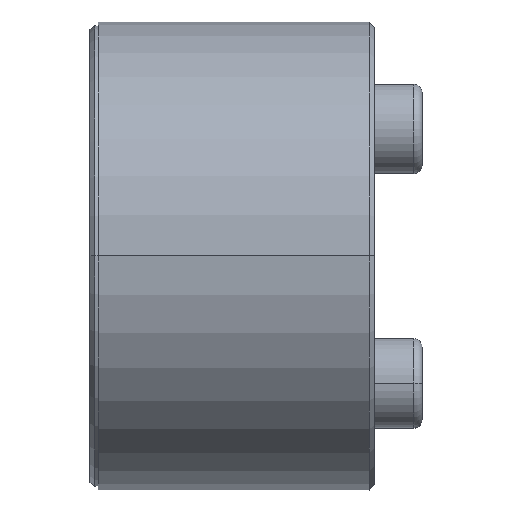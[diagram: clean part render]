
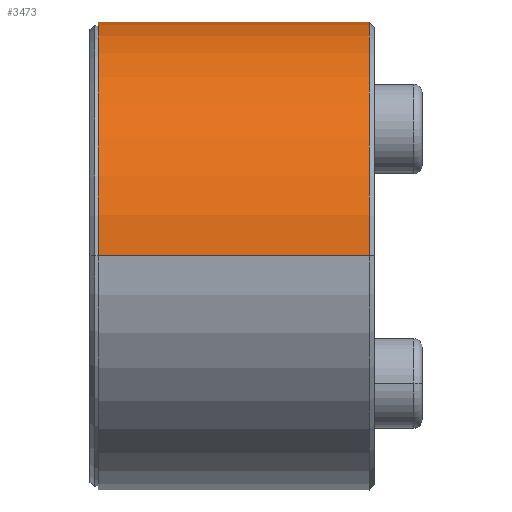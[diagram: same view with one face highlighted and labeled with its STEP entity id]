
A CAD part, top view. The second image highlights one B-rep face of the part: STEP entity #3473.
In plain terms, the highlighted cylindrical face has radius 14 mm (diameter 28 mm), a partial arc.
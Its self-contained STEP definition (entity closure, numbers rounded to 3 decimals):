
#15 = CARTESIAN_POINT ( 'NONE',  ( 16.683, 0., 14. ) ) ;
#26 = CARTESIAN_POINT ( 'NONE',  ( 0.483, 0., 14. ) ) ;
#56 = CIRCLE ( 'NONE', #3050, 14. ) ;
#120 = ORIENTED_EDGE ( 'NONE', *, *, #2072, .T. ) ;
#302 = LINE ( 'NONE', #26, #1126 ) ;
#509 = EDGE_CURVE ( 'NONE', #2976, #2928, #706, .T. ) ;
#583 = DIRECTION ( 'NONE',  ( -1., 0., 0. ) ) ;
#602 = DIRECTION ( 'NONE',  ( 0., -0.997, 0.071 ) ) ;
#706 = CIRCLE ( 'NONE', #3100, 14. ) ;
#801 = DIRECTION ( 'NONE',  ( 1., 0., 0. ) ) ;
#899 = CARTESIAN_POINT ( 'NONE',  ( 16.683, 0., 0. ) ) ;
#1045 = VERTEX_POINT ( 'NONE', #15 ) ;
#1126 = VECTOR ( 'NONE', #3866, 1000. ) ;
#1174 = DIRECTION ( 'NONE',  ( 1., 0., 0. ) ) ;
#1183 = DIRECTION ( 'NONE',  ( -1., 0., 0. ) ) ;
#1195 = LINE ( 'NONE', #2525, #3419 ) ;
#1276 = EDGE_CURVE ( 'NONE', #2976, #1045, #302, .T. ) ;
#1343 = ORIENTED_EDGE ( 'NONE', *, *, #1276, .T. ) ;
#1357 = CARTESIAN_POINT ( 'NONE',  ( 16.683, 0., -14. ) ) ;
#2039 = CARTESIAN_POINT ( 'NONE',  ( 0.483, 0., -14. ) ) ;
#2072 = EDGE_CURVE ( 'NONE', #1045, #3983, #56, .T. ) ;
#2171 = ORIENTED_EDGE ( 'NONE', *, *, #2687, .F. ) ;
#2250 = ORIENTED_EDGE ( 'NONE', *, *, #509, .F. ) ;
#2498 = DIRECTION ( 'NONE',  ( 0., 0., 1. ) ) ;
#2525 = CARTESIAN_POINT ( 'NONE',  ( 0.483, 0., -14. ) ) ;
#2636 = EDGE_LOOP ( 'NONE', ( #2171, #2250, #1343, #120 ) ) ;
#2687 = EDGE_CURVE ( 'NONE', #2928, #3983, #1195, .T. ) ;
#2928 = VERTEX_POINT ( 'NONE', #2039 ) ;
#2976 = VERTEX_POINT ( 'NONE', #3333 ) ;
#3050 = AXIS2_PLACEMENT_3D ( 'NONE', #899, #583, #3878 ) ;
#3100 = AXIS2_PLACEMENT_3D ( 'NONE', #3482, #1183, #602 ) ;
#3333 = CARTESIAN_POINT ( 'NONE',  ( 0.483, 0., 14. ) ) ;
#3419 = VECTOR ( 'NONE', #1174, 1000. ) ;
#3464 = CARTESIAN_POINT ( 'NONE',  ( 0.483, 0., 0. ) ) ;
#3473 = ADVANCED_FACE ( 'NONE', ( #3737 ), #3504, .T. ) ;
#3482 = CARTESIAN_POINT ( 'NONE',  ( 0.483, 0., 0. ) ) ;
#3504 = CYLINDRICAL_SURFACE ( 'NONE', #4180, 14. ) ;
#3737 = FACE_OUTER_BOUND ( 'NONE', #2636, .T. ) ;
#3866 = DIRECTION ( 'NONE',  ( 1., 0., 0. ) ) ;
#3878 = DIRECTION ( 'NONE',  ( 0., -0.997, 0.071 ) ) ;
#3983 = VERTEX_POINT ( 'NONE', #1357 ) ;
#4180 = AXIS2_PLACEMENT_3D ( 'NONE', #3464, #801, #2498 ) ;
